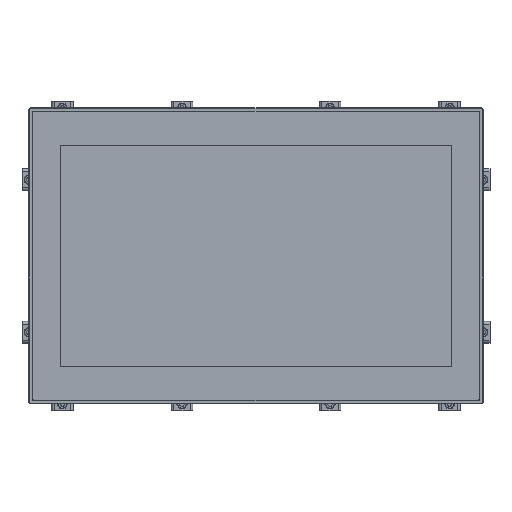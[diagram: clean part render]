
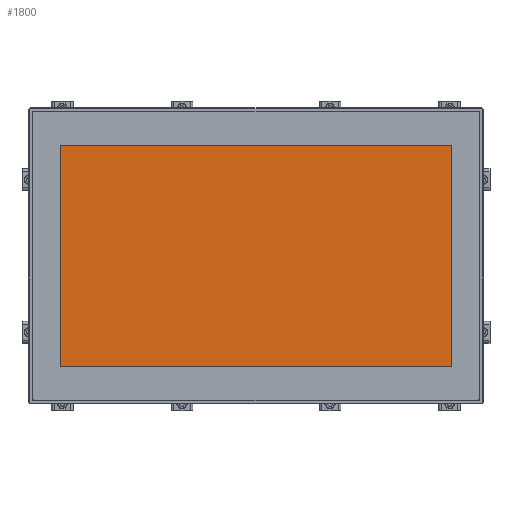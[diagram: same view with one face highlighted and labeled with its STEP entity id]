
A CAD part, top view. The second image highlights one B-rep face of the part: STEP entity #1800.
In plain terms, the highlighted planar face has unit normal (0, 0, 1).
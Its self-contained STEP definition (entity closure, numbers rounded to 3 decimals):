
#1466=DIRECTION('',(0.,-1.,0.));
#1467=VECTOR('',#1466,193.5);
#1468=CARTESIAN_POINT('',(172.1,96.75,5.8));
#1469=LINE('',#1468,#1467);
#1473=DIRECTION('',(1.,0.,0.));
#1474=VECTOR('',#1473,344.2);
#1475=CARTESIAN_POINT('',(-172.1,96.75,5.8));
#1476=LINE('',#1475,#1474);
#1480=DIRECTION('',(0.,1.,0.));
#1481=VECTOR('',#1480,193.5);
#1482=CARTESIAN_POINT('',(-172.1,-96.75,5.8));
#1483=LINE('',#1482,#1481);
#1487=DIRECTION('',(-1.,0.,0.));
#1488=VECTOR('',#1487,344.2);
#1489=CARTESIAN_POINT('',(172.1,-96.75,5.8));
#1490=LINE('',#1489,#1488);
#1577=CARTESIAN_POINT('',(172.1,96.75,5.8));
#1578=CARTESIAN_POINT('',(172.1,-96.75,5.8));
#1579=VERTEX_POINT('',#1577);
#1580=VERTEX_POINT('',#1578);
#1581=CARTESIAN_POINT('',(-172.1,96.75,5.8));
#1582=VERTEX_POINT('',#1581);
#1583=CARTESIAN_POINT('',(-172.1,-96.75,5.8));
#1584=VERTEX_POINT('',#1583);
#1789=CARTESIAN_POINT('',(0.,0.,5.8));
#1790=DIRECTION('',(0.,0.,1.));
#1791=DIRECTION('',(-1.,0.,0.));
#1792=AXIS2_PLACEMENT_3D('',#1789,#1790,#1791);
#1793=PLANE('',#1792);
#1794=ORIENTED_EDGE('',*,*,#1687,.T.);
#1795=ORIENTED_EDGE('',*,*,#1693,.T.);
#1796=ORIENTED_EDGE('',*,*,#1691,.T.);
#1797=ORIENTED_EDGE('',*,*,#1689,.T.);
#1798=EDGE_LOOP('',(#1794,#1795,#1796,#1797));
#1799=FACE_OUTER_BOUND('',#1798,.F.);
#1687=EDGE_CURVE('',#1579,#1580,#1469,.T.);
#1689=EDGE_CURVE('',#1582,#1579,#1476,.T.);
#1691=EDGE_CURVE('',#1584,#1582,#1483,.T.);
#1693=EDGE_CURVE('',#1580,#1584,#1490,.T.);
#1800=ADVANCED_FACE('',(#1799),#1793,.T.);
